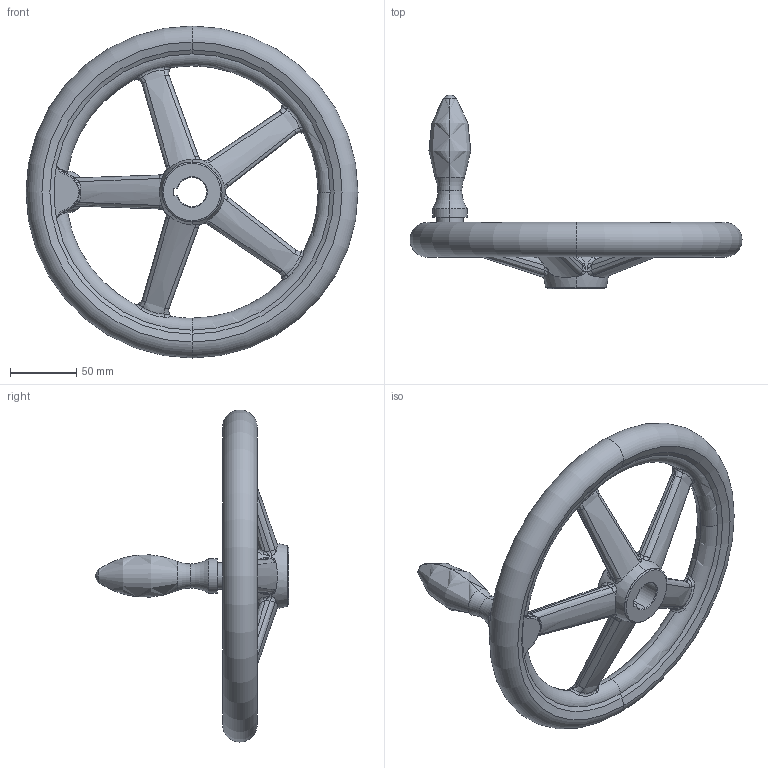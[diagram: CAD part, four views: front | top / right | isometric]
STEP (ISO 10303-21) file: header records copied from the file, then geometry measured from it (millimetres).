
FILE_DESCRIPTION (( 'STEP AP203' ), '1' );
FILE_NAME ('din950_f3_250x22.step', '2010-03-23T10:24:47', ( '_' ), ( '_' ), 'SwSTEP 2.0', 'SolidWorks 2010', '' );
FILE_SCHEMA (( 'CONFIG_CONTROL_DESIGN' ));
Length unit declared in the file: millimetre
Products named in the file (1): din950_f3_250x22
Bounding box: 250 x 146 x 250 mm (x, y, z)
Volume: 584374.4 mm3; surface area: 97296.7 mm2
Topology: 1 solids, 1 shells, 269 faces, 656 edges, 361 vertices
Faces by surface type: bspline 176, torus 25, plane 20, sphere 18, cone 18, cylinder 12
Entity records: 37523 total; most frequent: CARTESIAN_POINT 32326, ORIENTED_EDGE 1268, DIRECTION 742, EDGE_CURVE 634, VERTEX_POINT 361, AXIS2_PLACEMENT_3D 353, B_SPLINE_CURVE_WITH_KNOTS 339, EDGE_LOOP 275
